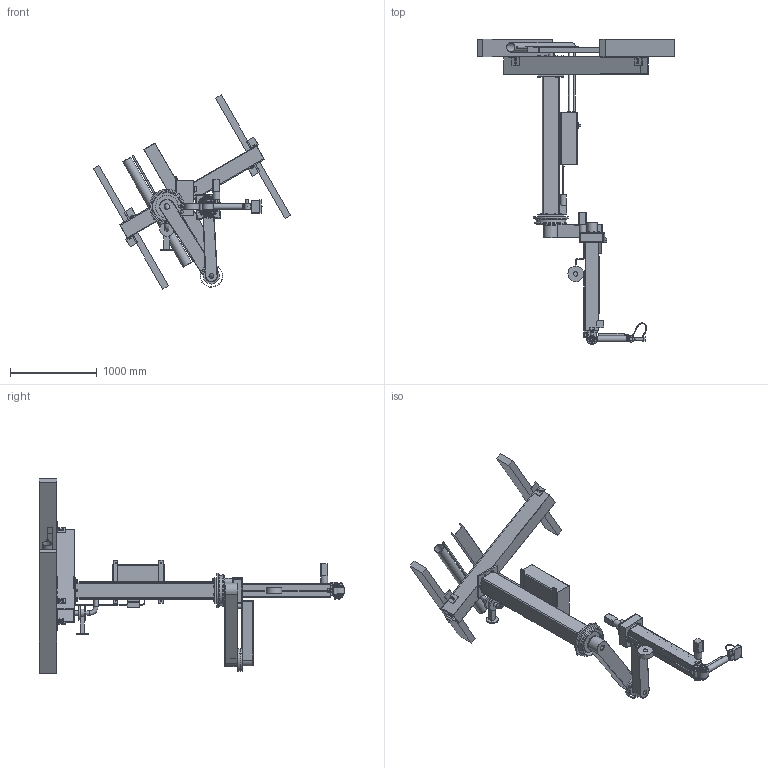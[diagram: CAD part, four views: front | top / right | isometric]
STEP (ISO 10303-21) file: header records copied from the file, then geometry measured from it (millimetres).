
FILE_DESCRIPTION(('Open CASCADE Model'),'2;1');
FILE_NAME('Open CASCADE Shape Model','2026-11-14T21:47:19',('Author'),( 'Open CASCADE'),'Open CASCADE STEP processor 7.9','Open CASCADE 7.9' ,'Unknown');
FILE_SCHEMA(('AUTOMOTIVE_DESIGN { 1 0 10303 214 1 1 1 1 }'));
Length unit declared in the file: millimetre
Products named in the file (133): clean_arm; Base; CLN-HDR#1; CLN-PUR#1; CLN-CLP#1; ISO4017-M12x40-8.8#1; ISO7089-12-fast_zn#1; ISO7040-M12-8#1; CLN-COL#1; ISO4017-M16x70-8.8#1; ISO7089-16-fast_zn#1; ISO7040-M16-8#1; CLN-BAS#1; ISO4762-M12x40-10.9#1; CLN-RNG1#1; CLN-BND#1; XRB-100x160x16#1; CLN-PIN1#1; CLN-SGM1#1; CLN-SWV1#1; CLN-VRS#1; CLN-VGV#1; CLN-VBR#1; CLN-VMN#1; CLN-AMN#1; CLN-ADR#1; CLN-AFR#1; CLN-AFB#1; ISO7380-M6x12-A2-70#1; CLN-AIL#1; CLN-ENC#1; CLN-ENR#1; ISO4017-M8x16-A4-70#1; CLN-ISO#1; CLN-CTY#1; CLN-ECDP#1; CLN-ECDN#1; CLN-EMC#1; CLN-ESC#1; CA_J1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
Assembly tree (274 placements, depth 13):
  clean_arm
    Base
      CLN-HDR#1
      CLN-PUR#1  x2
      CLN-CLP#1  x4
      ISO4017-M12x40-8.8#1  x8
      ISO7089-12-fast_zn#1  x16
      ISO7040-M12-8#1  x8
      CLN-COL#1
      ISO4017-M16x70-8.8#1  x4
      ISO7089-16-fast_zn#1  x4
      ISO7040-M16-8#1  x4
      CLN-BAS#1
      ISO4762-M12x40-10.9#1  x8
      CLN-RNG1#1
      CLN-BND#1
      XRB-100x160x16#1
      CLN-PIN1#1
      CLN-SGM1#1
      CLN-SWV1#1
      CLN-VRS#1
      CLN-VGV#1
      CLN-VBR#1
      CLN-VMN#1
      CLN-AMN#1
      CLN-ADR#1
      CLN-AFR#1
      CLN-AFB#1
      ISO7380-M6x12-A2-70#1  x2
      CLN-AIL#1
      CLN-ENC#1
      CLN-ENR#1  x2
      ISO4017-M8x16-A4-70#1  x4
      CLN-ISO#1
      CLN-CTY#1
      CLN-ECDP#1
      CLN-ECDN#1
      CLN-EMC#1
      CLN-ESC#1
      CA_J1
        CLN-J1H#1
        ISO4762-M8x20-12.9#1  x6
        CLN-RCK1#1
        CLN-L1#1
        CLN-L1C#1
        ISO7380-M5x10-A2-70#1  x12
        CLN-L1D#1
        CLN-J2C#1
        XRB-100x150x13#1
        CLN-PIN2#1
        CLN-SGM2#1
        CLN-SWV2#1
        CA_J2
          CLN-J2H#1
          ISO4762-M6x16-12.9#1  x6
          CLN-RCK2#1
          CLN-L2#1
          CLN-J2L#1
          CLN-L2C#1
          ISO7380-M5x10-A2-70#1  x10
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Bounding box: 2273.89 x 3515 x 2236.59 mm (x, y, z)
Volume: 161961304.2 mm3; surface area: 20929751.2 mm2
Topology: 395 solids, 395 shells, 3732 faces, 7630 edges, 4942 vertices
Faces by surface type: plane 2589, cylinder 733, cone 258, torus 98, sphere 50, bspline 4
Full cylindrical faces by diameter (mm): 3 x3, 4 x19, 5 x42, 5.5 x7, 6 x26, 7 x16, 8 x16, 8.06 x38, 8.5 x14, 9 x5, 9.92 x32, 10 x24, 10.08 x8, 10.2 x8, 12 x23, 13 x22, 13.44 x4, 13.5 x16, 13.679 x2, 14 x8, 14.88 x35, 15 x1, 15.3 x2, 16 x10, 17 x4, 17.5 x7, 18 x11, 21.3 x2, 21.559 x4, 22 x1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
Entity records: 125705 total; most frequent: CARTESIAN_POINT 30898, DIRECTION 17733, LINE 9682, VECTOR 9682, ORIENTED_EDGE 8492, PCURVE 8492, DEFINITIONAL_REPRESENTATION 8492, EDGE_CURVE 4246
